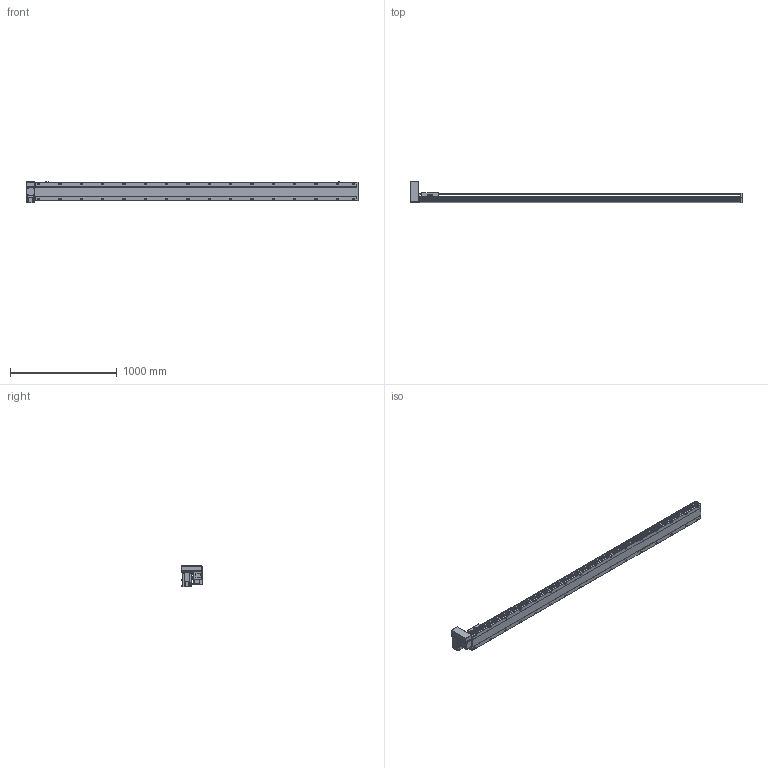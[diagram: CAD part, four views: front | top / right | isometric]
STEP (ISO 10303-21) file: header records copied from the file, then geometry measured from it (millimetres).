
FILE_DESCRIPTION(/* description */ ('STEP AP214'),/* implementation_level */ '2;1');
FILE_NAME(/* name */ 'PBS170-P40-S2750-RU-T75-C1-N(0)',/* time_stamp */ '2022-06-08T08:01:04+02:00',/* author */ ('License CC BY-ND 4.0'),/* organization */ ('CADENAS'),/* preprocessor_version */ 'ST-DEVELOPER v18.102',/* originating_system */ 'PARTsolutions',/* authorisation */ ' ');
FILE_SCHEMA (('AUTOMOTIVE_DESIGN {1 0 10303 214 3 1 1}'));
Length unit declared in the file: millimetre
Products named in the file (7): PBS170-P40-S2750-RU-T75-C1-N(0); PBS170_sensor; PBS170_plant; PBS170_sliser; T75-p1; PBS170T-RU_motors; PBS170-S2750()_body
Assembly tree (8 placements, depth 2):
  PBS170-P40-S2750-RU-T75-C1-N(0)
    PBS170_sensor  x3
    PBS170_plant
    PBS170_sliser
    T75-p1
    PBS170T-RU_motors
    PBS170-S2750()_body
Bounding box: 3113 x 206 x 205.3 mm (x, y, z)
Volume: 23460278 mm3; surface area: 2944360 mm2
Topology: 8 solids, 8 shells, 1210 faces, 3195 edges, 2082 vertices
Faces by surface type: plane 735, cylinder 403, cone 62, sphere 8, torus 2
Full cylindrical faces by diameter (mm): 3.242 x4, 4 x2, 4.4 x4, 4.5 x6, 4.917 x4, 6 x9, 6.647 x40, 7 x2, 7.5 x4, 8 x8, 8.5 x32, 10 x4, 10.5 x32, 11 x2, 30 x2, 40 x1, 70 x1
Entity records: 34782 total; most frequent: CARTESIAN_POINT 6609, DIRECTION 5860, ORIENTED_EDGE 5508, EDGE_CURVE 2754, AXIS2_PLACEMENT_3D 2077, VERTEX_POINT 1922, LINE 1706, VECTOR 1706
